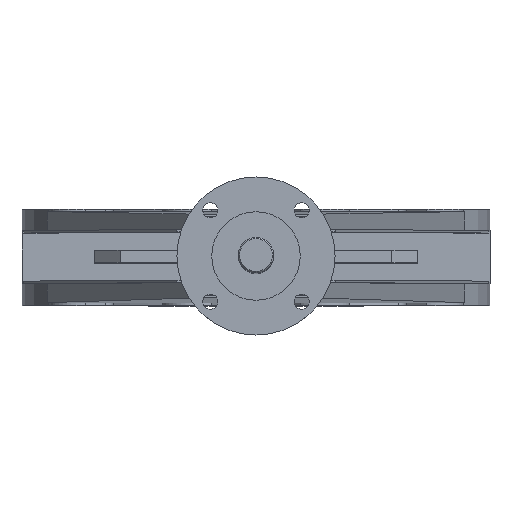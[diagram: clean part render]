
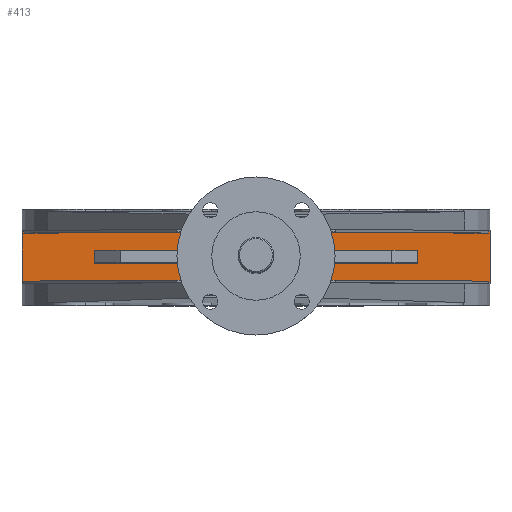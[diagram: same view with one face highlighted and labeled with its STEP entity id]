
A CAD part, top view. The second image highlights one B-rep face of the part: STEP entity #413.
In plain terms, the highlighted planar face has unit normal (0, 0, 1).
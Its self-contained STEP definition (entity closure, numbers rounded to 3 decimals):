
#413=ADVANCED_FACE('',(#2144,#2146),#2148,.T.);
#2144=FACE_BOUND('',#2145,.T.);
#2145=EDGE_LOOP('',(#3579,#3580,#3581,#3582,#3583,#3584,#3585,#3586,#3587,#3588,
#3589,#3590,#3591,#3592,#3593,#3594,#3595,#3596,#3597,#3598));
#2146=FACE_BOUND('',#2147,.T.);
#2147=EDGE_LOOP('',(#3599,#3600,#3601,#3602));
#2148=PLANE('',#2149);
#2149=AXIS2_PLACEMENT_3D('',#2150,#2151,#2152);
#2150=CARTESIAN_POINT('',(0.,0.,222.5));
#2151=DIRECTION('',(0.,0.,1.));
#2152=DIRECTION('',(0.,1.,0.));
#3579=ORIENTED_EDGE('',*,*,#4531,.F.);
#3580=ORIENTED_EDGE('',*,*,#4532,.F.);
#3581=ORIENTED_EDGE('',*,*,#4533,.F.);
#3582=ORIENTED_EDGE('',*,*,#4534,.T.);
#3583=ORIENTED_EDGE('',*,*,#4535,.F.);
#3584=ORIENTED_EDGE('',*,*,#4536,.F.);
#3585=ORIENTED_EDGE('',*,*,#4537,.F.);
#3586=ORIENTED_EDGE('',*,*,#4538,.T.);
#3587=ORIENTED_EDGE('',*,*,#4539,.T.);
#3588=ORIENTED_EDGE('',*,*,#4540,.T.);
#3589=ORIENTED_EDGE('',*,*,#4490,.F.);
#3590=ORIENTED_EDGE('',*,*,#4486,.F.);
#3591=ORIENTED_EDGE('',*,*,#4484,.F.);
#3592=ORIENTED_EDGE('',*,*,#4492,.T.);
#3593=ORIENTED_EDGE('',*,*,#4507,.F.);
#3594=ORIENTED_EDGE('',*,*,#4508,.F.);
#3595=ORIENTED_EDGE('',*,*,#4503,.F.);
#3596=ORIENTED_EDGE('',*,*,#4541,.T.);
#3597=ORIENTED_EDGE('',*,*,#4542,.T.);
#3598=ORIENTED_EDGE('',*,*,#4543,.T.);
#3599=ORIENTED_EDGE('',*,*,#4544,.F.);
#3600=ORIENTED_EDGE('',*,*,#4545,.F.);
#3601=ORIENTED_EDGE('',*,*,#4546,.F.);
#3602=ORIENTED_EDGE('',*,*,#4547,.F.);
#4484=EDGE_CURVE('',#5068,#5070,#5071,.T.);
#4486=EDGE_CURVE('',#5070,#5073,#5074,.T.);
#4490=EDGE_CURVE('',#5073,#5076,#5079,.T.);
#4492=EDGE_CURVE('',#5068,#5080,#5082,.T.);
#4503=EDGE_CURVE('',#5100,#5102,#5103,.T.);
#4507=EDGE_CURVE('',#5106,#5080,#5108,.T.);
#4508=EDGE_CURVE('',#5102,#5106,#5109,.T.);
#4531=EDGE_CURVE('',#5150,#5151,#5152,.F.);
#4532=EDGE_CURVE('',#5153,#5150,#5154,.F.);
#4533=EDGE_CURVE('',#5155,#5153,#5156,.F.);
#4534=EDGE_CURVE('',#5155,#5157,#5158,.T.);
#4535=EDGE_CURVE('',#5159,#5157,#5160,.F.);
#4536=EDGE_CURVE('',#5161,#5159,#5162,.F.);
#4537=EDGE_CURVE('',#5163,#5161,#5164,.F.);
#4538=EDGE_CURVE('',#5163,#5165,#5166,.T.);
#4539=EDGE_CURVE('',#5165,#5167,#5168,.T.);
#4540=EDGE_CURVE('',#5167,#5076,#5169,.T.);
#4541=EDGE_CURVE('',#5100,#5170,#5171,.T.);
#4542=EDGE_CURVE('',#5170,#5172,#5173,.T.);
#4543=EDGE_CURVE('',#5172,#5151,#5174,.T.);
#4544=EDGE_CURVE('',#5175,#5176,#5177,.T.);
#4545=EDGE_CURVE('',#5178,#5175,#5179,.F.);
#4546=EDGE_CURVE('',#5180,#5178,#5181,.T.);
#4547=EDGE_CURVE('',#5176,#5180,#5182,.T.);
#5068=VERTEX_POINT('',#6144);
#5070=VERTEX_POINT('',#6148);
#5071=LINE('',#6149,#6150);
#5073=VERTEX_POINT('',#6155);
#5074=LINE('',#6156,#6157);
#5076=VERTEX_POINT('',#6162);
#5079=LINE('',#6169,#6170);
#5080=VERTEX_POINT('',#6172);
#5082=LINE('',#6176,#6177);
#5100=VERTEX_POINT('',#6216);
#5102=VERTEX_POINT('',#6220);
#5103=LINE('',#6221,#6222);
#5106=VERTEX_POINT('',#6230);
#5108=LINE('',#6234,#6235);
#5109=LINE('',#6237,#6238);
#5150=VERTEX_POINT('',#6330);
#5151=VERTEX_POINT('',#6331);
#5152=LINE('',#6332,#6333);
#5153=VERTEX_POINT('',#6335);
#5154=LINE('',#6336,#6337);
#5155=VERTEX_POINT('',#6339);
#5156=LINE('',#6340,#6341);
#5157=VERTEX_POINT('',#6343);
#5158=LINE('',#6344,#6345);
#5159=VERTEX_POINT('',#6347);
#5160=LINE('',#6348,#6349);
#5161=VERTEX_POINT('',#6351);
#5162=LINE('',#6352,#6353);
#5163=VERTEX_POINT('',#6355);
#5164=LINE('',#6356,#6357);
#5165=VERTEX_POINT('',#6359);
#5166=LINE('',#6360,#6361);
#5167=VERTEX_POINT('',#6363);
#5168=LINE('',#6364,#6365);
#5169=LINE('',#6367,#6368);
#5170=VERTEX_POINT('',#6370);
#5171=LINE('',#6371,#6372);
#5172=VERTEX_POINT('',#6374);
#5173=LINE('',#6375,#6376);
#5174=LINE('',#6378,#6379);
#5175=VERTEX_POINT('',#6381);
#5176=VERTEX_POINT('',#6382);
#5177=LINE('',#6383,#6384);
#5178=VERTEX_POINT('',#6386);
#5179=LINE('',#6387,#6388);
#5180=VERTEX_POINT('',#6390);
#5181=LINE('',#6391,#6392);
#5182=LINE('',#6394,#6395);
#6144=CARTESIAN_POINT('',(161.733,20.,222.5));
#6148=CARTESIAN_POINT('',(161.733,19.,222.5));
#6149=CARTESIAN_POINT('',(161.733,20.,222.5));
#6150=VECTOR('',#6151,1.);
#6151=DIRECTION('',(0.,-1.,0.));
#6155=CARTESIAN_POINT('',(183.733,19.,222.5));
#6156=CARTESIAN_POINT('',(161.733,19.,222.5));
#6157=VECTOR('',#6158,1.);
#6158=DIRECTION('',(1.,0.,0.));
#6162=CARTESIAN_POINT('',(183.733,20.,222.5));
#6169=CARTESIAN_POINT('',(183.733,19.,222.5));
#6170=VECTOR('',#6171,1.);
#6171=DIRECTION('',(0.,1.,0.));
#6172=CARTESIAN_POINT('',(-161.733,20.,222.5));
#6176=CARTESIAN_POINT('',(161.733,20.,222.5));
#6177=VECTOR('',#6178,1.);
#6178=DIRECTION('',(-1.,0.,0.));
#6216=CARTESIAN_POINT('',(-183.733,20.,222.5));
#6220=CARTESIAN_POINT('',(-183.733,19.,222.5));
#6221=CARTESIAN_POINT('',(-183.733,20.,222.5));
#6222=VECTOR('',#6223,1.);
#6223=DIRECTION('',(0.,-1.,0.));
#6230=CARTESIAN_POINT('',(-161.733,19.,222.5));
#6234=CARTESIAN_POINT('',(-161.733,19.,222.5));
#6235=VECTOR('',#6236,1.);
#6236=DIRECTION('',(0.,1.,0.));
#6237=CARTESIAN_POINT('',(-183.733,19.,222.5));
#6238=VECTOR('',#6239,1.);
#6239=DIRECTION('',(1.,0.,0.));
#6330=CARTESIAN_POINT('',(-183.733,-19.,222.5));
#6331=CARTESIAN_POINT('',(-183.733,-20.,222.5));
#6332=CARTESIAN_POINT('',(-183.733,-20.,222.5));
#6333=VECTOR('',#6334,1.);
#6334=DIRECTION('',(0.,1.,0.));
#6335=CARTESIAN_POINT('',(-161.733,-19.,222.5));
#6336=CARTESIAN_POINT('',(-183.733,-19.,222.5));
#6337=VECTOR('',#6338,1.);
#6338=DIRECTION('',(1.,0.,0.));
#6339=CARTESIAN_POINT('',(-161.733,-20.,222.5));
#6340=CARTESIAN_POINT('',(-161.733,-19.,222.5));
#6341=VECTOR('',#6342,1.);
#6342=DIRECTION('',(0.,-1.,0.));
#6343=CARTESIAN_POINT('',(161.733,-20.,222.5));
#6344=CARTESIAN_POINT('',(-161.733,-20.,222.5));
#6345=VECTOR('',#6346,1.);
#6346=DIRECTION('',(1.,0.,0.));
#6347=CARTESIAN_POINT('',(161.733,-19.,222.5));
#6348=CARTESIAN_POINT('',(161.733,-20.,222.5));
#6349=VECTOR('',#6350,1.);
#6350=DIRECTION('',(0.,1.,0.));
#6351=CARTESIAN_POINT('',(183.733,-19.,222.5));
#6352=CARTESIAN_POINT('',(161.733,-19.,222.5));
#6353=VECTOR('',#6354,1.);
#6354=DIRECTION('',(1.,0.,0.));
#6355=CARTESIAN_POINT('',(183.733,-20.,222.5));
#6356=CARTESIAN_POINT('',(183.733,-19.,222.5));
#6357=VECTOR('',#6358,1.);
#6358=DIRECTION('',(0.,-1.,0.));
#6359=CARTESIAN_POINT('',(185.,-20.,222.5));
#6360=CARTESIAN_POINT('',(183.733,-20.,222.5));
#6361=VECTOR('',#6362,1.);
#6362=DIRECTION('',(1.,0.,0.));
#6363=CARTESIAN_POINT('',(185.,20.,222.5));
#6364=CARTESIAN_POINT('',(185.,-20.,222.5));
#6365=VECTOR('',#6366,1.);
#6366=DIRECTION('',(0.,1.,0.));
#6367=CARTESIAN_POINT('',(185.,20.,222.5));
#6368=VECTOR('',#6369,1.);
#6369=DIRECTION('',(-1.,0.,0.));
#6370=CARTESIAN_POINT('',(-185.,20.,222.5));
#6371=CARTESIAN_POINT('',(-183.733,20.,222.5));
#6372=VECTOR('',#6373,1.);
#6373=DIRECTION('',(-1.,0.,0.));
#6374=CARTESIAN_POINT('',(-185.,-20.,222.5));
#6375=CARTESIAN_POINT('',(-185.,20.,222.5));
#6376=VECTOR('',#6377,1.);
#6377=DIRECTION('',(0.,-1.,0.));
#6378=CARTESIAN_POINT('',(-185.,-20.,222.5));
#6379=VECTOR('',#6380,1.);
#6380=DIRECTION('',(1.,0.,0.));
#6381=CARTESIAN_POINT('',(-127.5,5.,222.5));
#6382=CARTESIAN_POINT('',(-127.5,-5.,222.5));
#6383=CARTESIAN_POINT('',(-127.5,5.,222.5));
#6384=VECTOR('',#6385,1.);
#6385=DIRECTION('',(0.,-1.,0.));
#6386=CARTESIAN_POINT('',(127.5,5.,222.5));
#6387=CARTESIAN_POINT('',(-127.5,5.,222.5));
#6388=VECTOR('',#6389,1.);
#6389=DIRECTION('',(1.,0.,0.));
#6390=CARTESIAN_POINT('',(127.5,-5.,222.5));
#6391=CARTESIAN_POINT('',(127.5,-5.,222.5));
#6392=VECTOR('',#6393,1.);
#6393=DIRECTION('',(0.,1.,0.));
#6394=CARTESIAN_POINT('',(-127.5,-5.,222.5));
#6395=VECTOR('',#6396,1.);
#6396=DIRECTION('',(1.,0.,0.));
